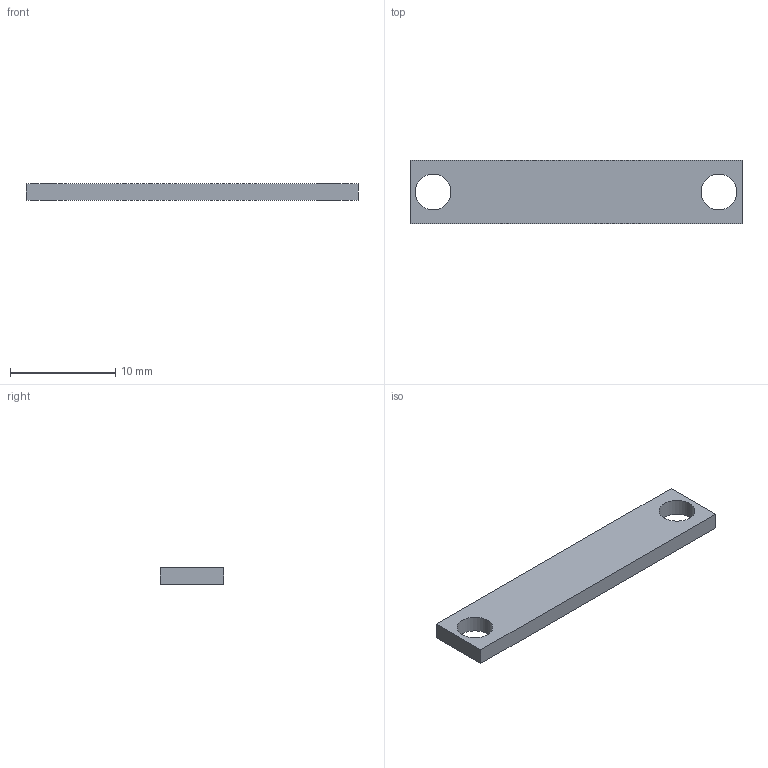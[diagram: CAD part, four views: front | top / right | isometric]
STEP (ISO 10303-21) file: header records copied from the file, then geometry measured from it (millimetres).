
FILE_DESCRIPTION(('FreeCAD Model'),'2;1');
FILE_NAME('Open CASCADE Shape Model','2026-11-20T08:25:38',('FreeCAD'),( 'FreeCAD'),'Open CASCADE STEP processor 7.8','FreeCAD','Unknown');
FILE_SCHEMA(('AUTOMOTIVE_DESIGN { 1 0 10303 214 1 1 1 1 }'));
Length unit declared in the file: millimetre
Products named in the file (1): Open CASCADE STEP translator 7.8 59
Bounding box: 31.6 x 6 x 1.6 mm (x, y, z)
Volume: 274.3 mm3; surface area: 497.4 mm2
Topology: 1 solids, 1 shells, 8 faces, 18 edges, 12 vertices
Faces by surface type: plane 6, cylinder 2
Full cylindrical faces by diameter (mm): 3.4 x2
Entity records: 244 total; most frequent: DIRECTION 40, CARTESIAN_POINT 39, ORIENTED_EDGE 36, EDGE_CURVE 18, LINE 14, VECTOR 14, AXIS2_PLACEMENT_3D 13, FACE_BOUND 12
